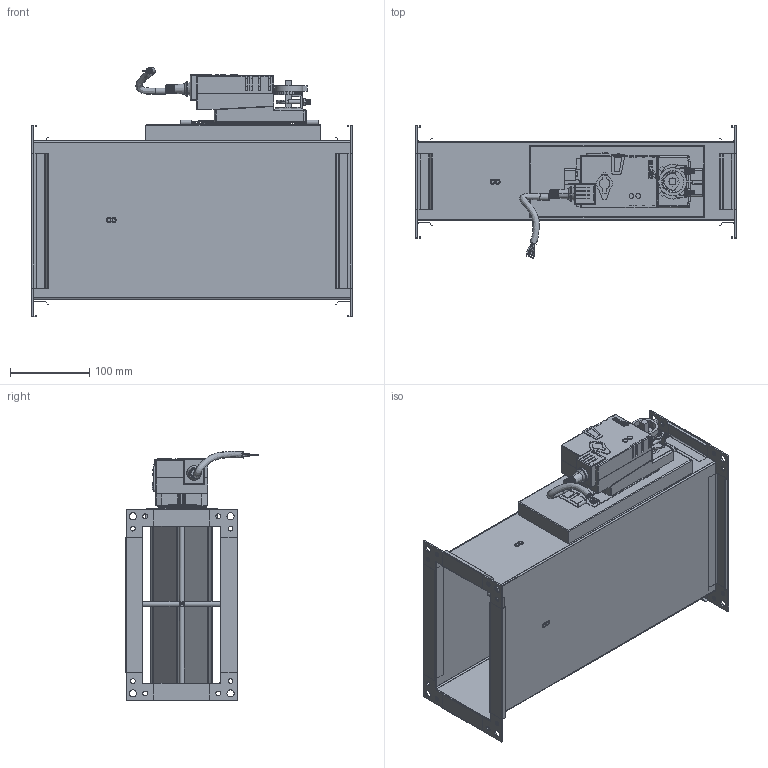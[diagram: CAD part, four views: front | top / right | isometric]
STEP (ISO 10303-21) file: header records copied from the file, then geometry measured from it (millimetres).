
FILE_DESCRIPTION (( 'STEP AP214' ), '1' );
FILE_NAME ('VAV-S200100.STEP', '2025-05-07T13:30:18', ( '' ), ( '' ), 'SwSTEP 2.0', 'SolidWorks 2025', '' );
FILE_SCHEMA (( 'AUTOMOTIVE_DESIGN' ));
Length unit declared in the file: millimetre
Products named in the file (1): VAV-S200100
Bounding box: 404.4 x 166.91 x 313.68 mm (x, y, z)
Surface area: 854073.7 mm2 (no closed solid volume)
Topology: 0 solids, 58 shells, 2042 faces, 5261 edges, 3345 vertices
Faces by surface type: plane 1515, cylinder 474, bspline 24, sphere 18, cone 10, torus 1
Full cylindrical faces by diameter (mm): 1 x4, 4 x8, 6 x17, 8 x1, 9 x8, 11 x1, 20 x1, 21 x2
Entity records: 90324 total; most frequent: CARTESIAN_POINT 41904, ORIENTED_EDGE 10285, DIRECTION 6484, EDGE_CURVE 5166, VERTEX_POINT 3315, B_SPLINE_CURVE_WITH_KNOTS 3180, AXIS2_PLACEMENT_3D 2491, EDGE_LOOP 2248
